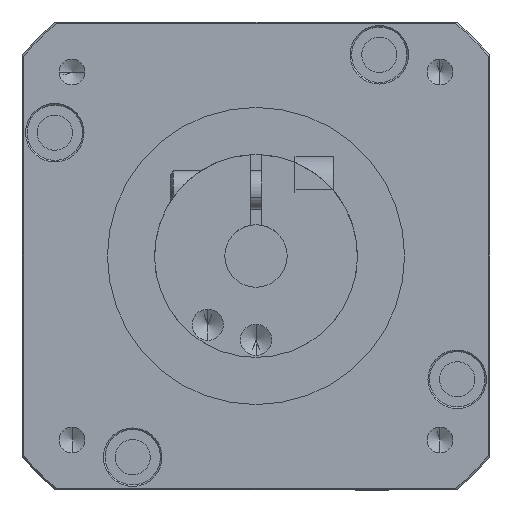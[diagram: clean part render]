
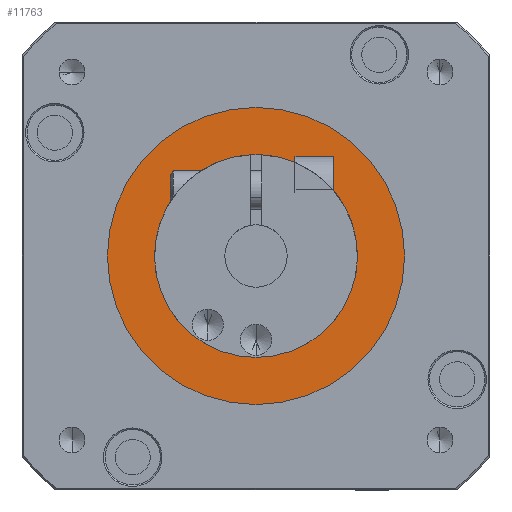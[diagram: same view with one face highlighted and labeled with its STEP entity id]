
A CAD part, front view. The second image highlights one B-rep face of the part: STEP entity #11763.
In plain terms, the highlighted planar face has unit normal (0, -1, 0).
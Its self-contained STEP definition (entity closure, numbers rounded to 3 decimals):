
#2354 = DIRECTION ( 'NONE',  ( 0., 0., -1. ) ) ;
#2464 = DIRECTION ( 'NONE',  ( 0., -1., 0. ) ) ;
#2584 = PLANE ( 'NONE',  #32166 ) ;
#2947 = ORIENTED_EDGE ( 'NONE', *, *, #17853, .T. ) ;
#3184 = EDGE_CURVE ( 'NONE', #24488, #34457, #30759, .T. ) ;
#4159 = CARTESIAN_POINT ( 'NONE',  ( 13., -21., 0. ) ) ;
#4440 = AXIS2_PLACEMENT_3D ( 'NONE', #4580, #24833, #7493 ) ;
#4580 = CARTESIAN_POINT ( 'NONE',  ( 0., -21., 0. ) ) ;
#5166 = VERTEX_POINT ( 'NONE', #11806 ) ;
#5605 = AXIS2_PLACEMENT_3D ( 'NONE', #11717, #11678, #11633 ) ;
#5979 = CIRCLE ( 'NONE', #4440, 22.5 ) ;
#7150 = CIRCLE ( 'NONE', #9308, 13. ) ;
#7493 = DIRECTION ( 'NONE',  ( 0., 0., -1. ) ) ;
#8540 = ORIENTED_EDGE ( 'NONE', *, *, #3184, .T. ) ;
#8943 = ORIENTED_EDGE ( 'NONE', *, *, #25510, .T. ) ;
#9308 = AXIS2_PLACEMENT_3D ( 'NONE', #22688, #22282, #22200 ) ;
#11449 = DIRECTION ( 'NONE',  ( 0., 0., -1. ) ) ;
#11456 = DIRECTION ( 'NONE',  ( 0., 1., 0. ) ) ;
#11482 = CARTESIAN_POINT ( 'NONE',  ( 0., -21., 0. ) ) ;
#11540 = FACE_OUTER_BOUND ( 'NONE', #26969, .T. ) ;
#11633 = DIRECTION ( 'NONE',  ( 0., 0., -1. ) ) ;
#11678 = DIRECTION ( 'NONE',  ( 0., -1., 0. ) ) ;
#11717 = CARTESIAN_POINT ( 'NONE',  ( 0., -21., 0. ) ) ;
#11763 = ADVANCED_FACE ( 'NONE', ( #11540, #31181 ), #2584, .T. ) ;
#11806 = CARTESIAN_POINT ( 'NONE',  ( 0., -21., 22.5 ) ) ;
#13026 = EDGE_CURVE ( 'NONE', #5166, #25974, #21508, .T. ) ;
#14872 = CARTESIAN_POINT ( 'NONE',  ( 0., -21., -22.5 ) ) ;
#17853 = EDGE_CURVE ( 'NONE', #34457, #24488, #7150, .T. ) ;
#18893 = EDGE_LOOP ( 'NONE', ( #8540, #2947 ) ) ;
#21508 = CIRCLE ( 'NONE', #5605, 22.5 ) ;
#22200 = DIRECTION ( 'NONE',  ( 0., 0., -1. ) ) ;
#22282 = DIRECTION ( 'NONE',  ( 0., 1., 0. ) ) ;
#22688 = CARTESIAN_POINT ( 'NONE',  ( 0., -21., 0. ) ) ;
#24488 = VERTEX_POINT ( 'NONE', #34680 ) ;
#24833 = DIRECTION ( 'NONE',  ( 0., -1., 0. ) ) ;
#25510 = EDGE_CURVE ( 'NONE', #25974, #5166, #5979, .T. ) ;
#25974 = VERTEX_POINT ( 'NONE', #14872 ) ;
#26969 = EDGE_LOOP ( 'NONE', ( #8943, #29795 ) ) ;
#27425 = AXIS2_PLACEMENT_3D ( 'NONE', #11482, #11456, #11449 ) ;
#28284 = CARTESIAN_POINT ( 'NONE',  ( 0., -21., 13. ) ) ;
#29795 = ORIENTED_EDGE ( 'NONE', *, *, #13026, .T. ) ;
#30759 = CIRCLE ( 'NONE', #27425, 13. ) ;
#31181 = FACE_BOUND ( 'NONE', #18893, .T. ) ;
#32166 = AXIS2_PLACEMENT_3D ( 'NONE', #4159, #2464, #2354 ) ;
#34457 = VERTEX_POINT ( 'NONE', #28284 ) ;
#34680 = CARTESIAN_POINT ( 'NONE',  ( 0., -21., -13. ) ) ;
